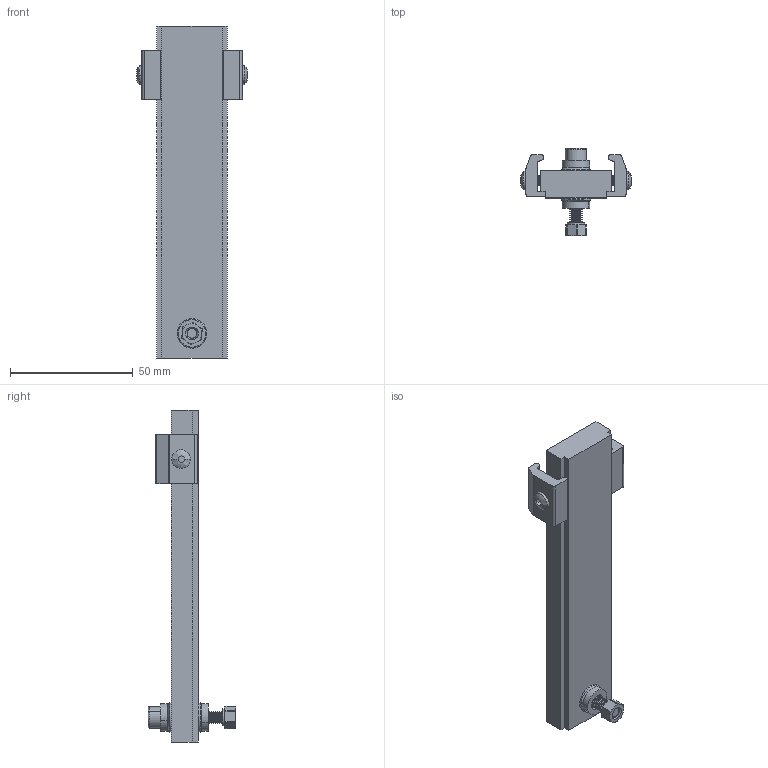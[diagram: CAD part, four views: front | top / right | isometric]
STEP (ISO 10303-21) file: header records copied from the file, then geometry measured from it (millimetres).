
FILE_DESCRIPTION (( 'STEP AP214' ), '1' );
FILE_NAME ('Rockwell Automation-445L-AF6144.STEP', '2015-05-01T16:51:48', ( 'Windows User' ), ( '' ), 'SwSTEP 2.0', 'SolidWorks 2015', '' );
FILE_SCHEMA (( 'AUTOMOTIVE_DESIGN' ));
Length unit declared in the file: millimetre
Products named in the file (1): Rockwell Automation-445L-AF6144
Bounding box: 45.09 x 35.64 x 135 mm (x, y, z)
Volume: 45527 mm3; surface area: 17363.5 mm2
Topology: 12 solids, 12 shells, 795 faces, 1748 edges, 983 vertices
Faces by surface type: cone 338, cylinder 203, bspline 172, plane 78, torus 4
Entity records: 32651 total; most frequent: CARTESIAN_POINT 6381, DIRECTION 3985, ORIENTED_EDGE 3496, EDGE_CURVE 1748, AXIS2_PLACEMENT_3D 1659, CIRCLE 1035, VERTEX_POINT 983, EDGE_LOOP 821
